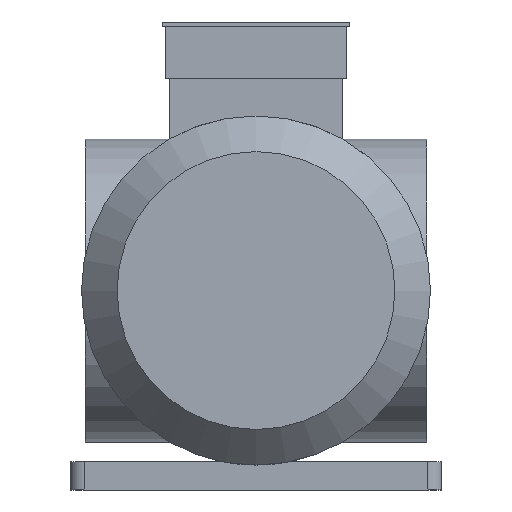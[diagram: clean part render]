
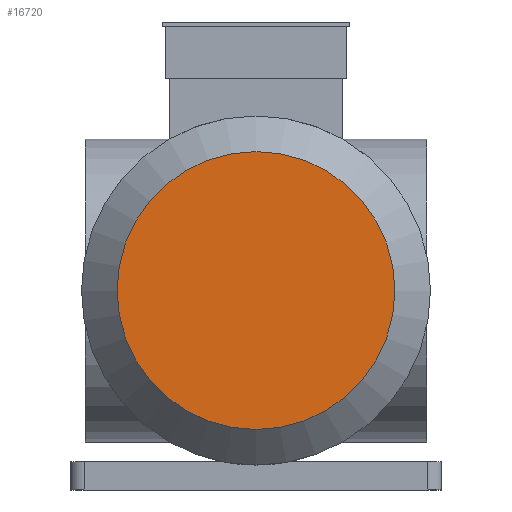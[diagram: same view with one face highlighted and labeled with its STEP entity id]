
A CAD part, front view. The second image highlights one B-rep face of the part: STEP entity #16720.
In plain terms, the highlighted planar face has unit normal (0, -1, 0).
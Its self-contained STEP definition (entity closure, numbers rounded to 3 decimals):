
#3887=FACE_OUTER_BOUND('',#4859,.T.);
#4859=EDGE_LOOP('',(#14561));
#5902=CIRCLE('',#18597,195.);
#7446=VERTEX_POINT('',#38472);
#9838=EDGE_CURVE('',#7446,#7446,#5902,.T.);
#14561=ORIENTED_EDGE('',*,*,#9838,.F.);
#14952=PLANE('',#18600);
#16720=ADVANCED_FACE('',(#3887),#14952,.F.);
#18597=AXIS2_PLACEMENT_3D('',#38474,#23206,#23207);
#18600=AXIS2_PLACEMENT_3D('',#38480,#23214,#23215);
#23206=DIRECTION('center_axis',(0.,1.,0.));
#23207=DIRECTION('ref_axis',(0.,0.,
1.));
#23214=DIRECTION('center_axis',(0.,1.,0.));
#23215=DIRECTION('ref_axis',(0.,0.,
1.));
#38472=CARTESIAN_POINT('',(0.,-1186.,-195.));
#38474=CARTESIAN_POINT('Origin',(0.,-1186.,
0.));
#38480=CARTESIAN_POINT('Origin',(0.,-1186.,
0.));
